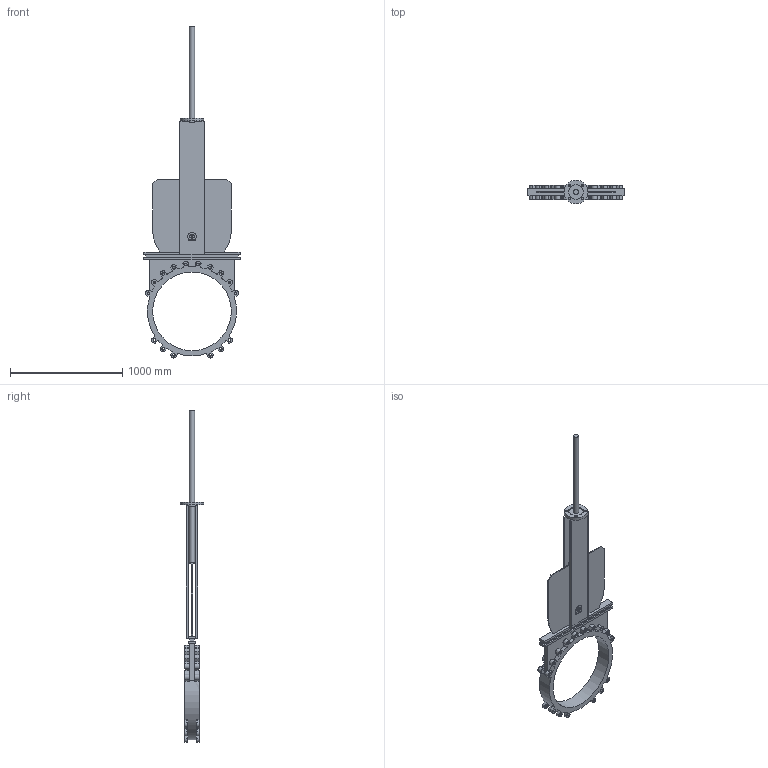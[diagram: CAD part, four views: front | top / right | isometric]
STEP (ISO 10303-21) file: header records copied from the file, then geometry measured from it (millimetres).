
FILE_DESCRIPTION(('STEP AP203'), '1');
FILE_NAME('K21GVA_DN700', '', ('UNSPECIFIED'), ('UNSPECIFIED'), 'ASCON STEP Converter 1.6', 'ASCON Math Kernel', '');
FILE_SCHEMA(('CONFIG_CONTROL_DESIGN'));
Length unit declared in the file: millimetre
Bounding box: 855 x 210 x 2955.4 mm (x, y, z)
Volume: 32512442.4 mm3; surface area: 3947023.8 mm2
Topology: 1 solids, 1 shells, 341 faces, 969 edges, 639 vertices
Faces by surface type: plane 172, cylinder 148, cone 21
Full cylindrical faces by diameter (mm): 22 x4, 23.752 x32, 46 x2, 80 x1, 130 x1, 210 x1, 700 x1, 794 x1
Entity records: 13530 total; most frequent: DIRECTION 1940, CARTESIAN_POINT 1846, ORIENTED_EDGE 1770, EDGE_CURVE 885, AXIS2_PLACEMENT_3D 713, VERTEX_POINT 619, LINE 514, VECTOR 514
